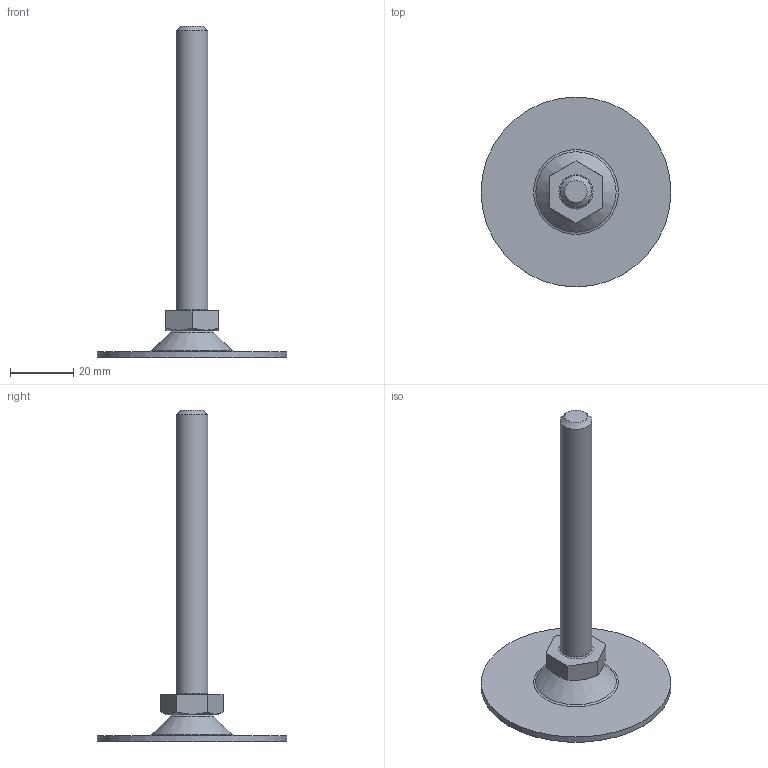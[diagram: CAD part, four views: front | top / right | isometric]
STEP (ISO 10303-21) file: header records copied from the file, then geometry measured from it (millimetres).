
FILE_DESCRIPTION(('STEP AP203'), '1');
FILE_NAME('A00050.1061016', '', ('UNSPECIFIED'), ('UNSPECIFIED'), 'C3D Converter', 'C3D Toolkit', '');
FILE_SCHEMA(('CONFIG_CONTROL_DESIGN'));
Length unit declared in the file: millimetre
Products named in the file (4): A00050.1061090; A00050.1160
Assembly tree (3 placements, depth 2):
  A00050.1061090
    A00050.1160
    (unnamed)
    (unnamed)
Bounding box: 60 x 60 x 104.93 mm (x, y, z)
Volume: 14563.5 mm3; surface area: 10414.3 mm2
Topology: 3 solids, 3 shells, 58 faces, 130 edges, 82 vertices
Faces by surface type: plane 28, torus 8, bspline 8, cone 7, cylinder 6, sphere 1
Full cylindrical faces by diameter (mm): 3.3 x1, 4 x1, 4.5 x1, 8 x1, 10 x1, 60 x1
Entity records: 2171 total; most frequent: CARTESIAN_POINT 784, DIRECTION 242, ORIENTED_EDGE 214, EDGE_CURVE 107, AXIS2_PLACEMENT_3D 95, EDGE_LOOP 86, VERTEX_POINT 81, ADVANCED_FACE 58
